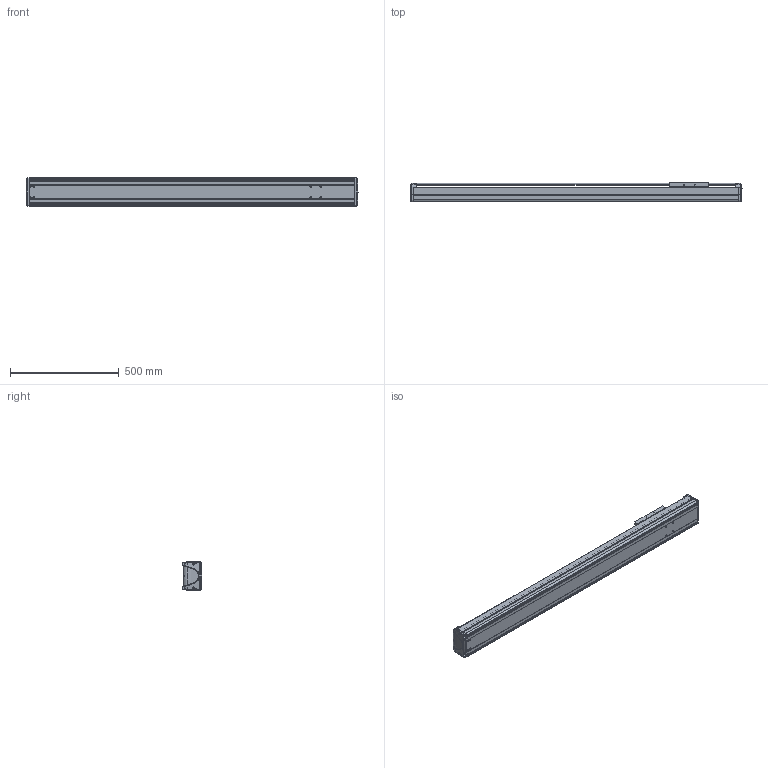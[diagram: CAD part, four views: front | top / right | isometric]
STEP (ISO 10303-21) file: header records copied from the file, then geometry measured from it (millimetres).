
FILE_DESCRIPTION((''),'2;1');
FILE_NAME('BE30E-ST-L_B-B5_IGS_PRT','2017-06-17T',(' '),(''),'PRO/ENGINEER BY PARAMETRIC TECHNOLOGY CORPORATION, 2015030','PRO/ENGINEER BY PARAMETRIC TECHNOLOGY CORPORATION, 2015030','');
FILE_SCHEMA(('CONFIG_CONTROL_DESIGN'));
Length unit declared in the file: millimetre
Products named in the file (1): BE30E-ST-L_B-B5_IGS_PRT
Bounding box: 1525 x 89.8 x 130 mm (x, y, z)
Volume: 4667810.5 mm3; surface area: 1816053.3 mm2
Topology: 3 solids, 100 shells, 1432 faces, 3876 edges, 2539 vertices
Faces by surface type: cylinder 675, plane 606, bspline 55, torus 42, cone 30, sphere 24
Entity records: 48307 total; most frequent: CARTESIAN_POINT 12073, DIRECTION 7487, ORIENTED_EDGE 7326, EDGE_CURVE 3856, AXIS2_PLACEMENT_3D 2730, VERTEX_POINT 2539, VECTOR 2027, LINE 2027
